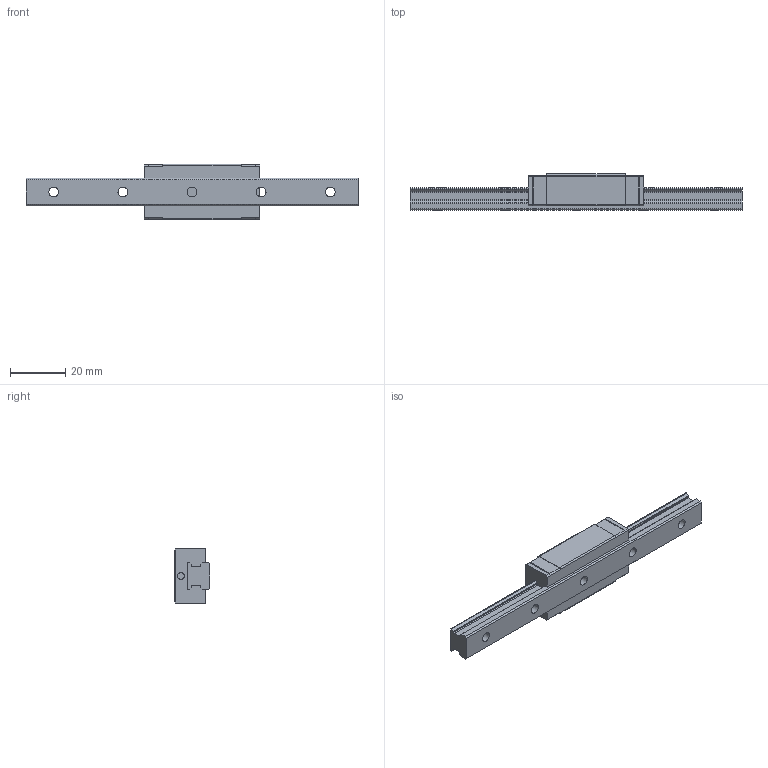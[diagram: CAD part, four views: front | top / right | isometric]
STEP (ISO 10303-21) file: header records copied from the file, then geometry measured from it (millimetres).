
FILE_DESCRIPTION(/* description */ ('STEP AP203'),/* implementation_level */ '2;1');
FILE_NAME(/* name */ 'HRG10LRM1UU-120LHM_G10_0_Without_grease_nipple_42-75_0_0_01',/* time_stamp */ '2024-05-23T11:23:22+02:00',/* author */ ('License CC BY-ND 4.0'),/* organization */ ('CADENAS'),/* preprocessor_version */ 'ST-DEVELOPER v19.3',/* originating_system */ 'PARTsolutions',/* authorisation */ ' ');
FILE_SCHEMA (('CONFIG_CONTROL_DESIGN'));
Length unit declared in the file: millimetre
Products named in the file (4): HRG10LRM1UU-120LHM_G10_0_Without_grease_nipple_42-75_0_0_01; HRG10LRM112010 Rail; HRG10LRMUU 1Slider; HSR-YR-_grease_nipple_joint
Assembly tree (3 placements, depth 2):
  HRG10LRM1UU-120LHM_G10_0_Without_grease_nipple_42-75_0_0_01
    HRG10LRM112010 Rail
    HRG10LRMUU 1Slider
    HSR-YR-_grease_nipple_joint
Bounding box: 120 x 13 x 20 mm (x, y, z)
Volume: 14624.1 mm3; surface area: 8914.1 mm2
Topology: 2 solids, 2 shells, 143 faces, 392 edges, 261 vertices
Faces by surface type: plane 86, cylinder 49, cone 8
Full cylindrical faces by diameter (mm): 1.567 x4, 2.5 x2, 3.5 x5, 6 x5
Entity records: 4478 total; most frequent: CARTESIAN_POINT 764, DIRECTION 756, ORIENTED_EDGE 720, EDGE_CURVE 360, LINE 258, VECTOR 258, VERTEX_POINT 256, AXIS2_PLACEMENT_3D 249
